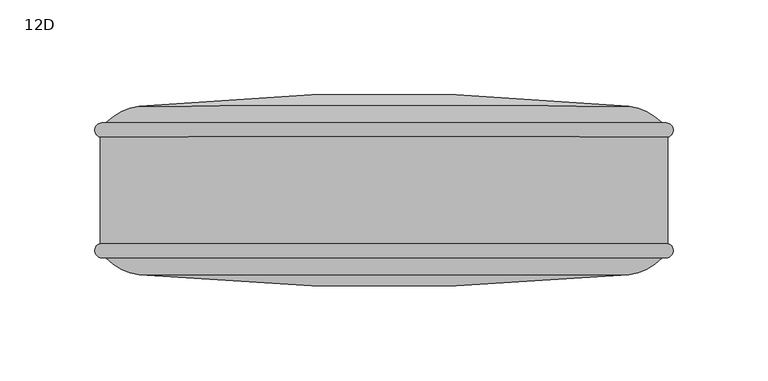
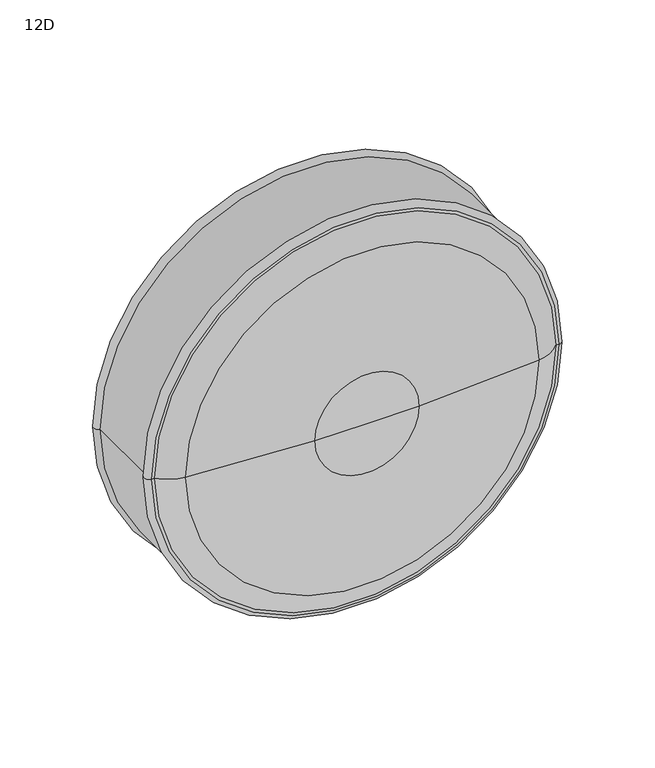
"""IFC4 building model written with IfcOpenShell, lengths in millimetres: furniture geometry, Steelcase Coalesse - Evaneau - Seating - Round Back Pillow : 12D."""

import ifcopenshell
import ifcopenshell.guid

model = None  # the IFC model being written
_history = None  # IfcOwnerHistory: only IFC2X3 demands one
_inside = {}  # id of a spatial element -> (the spatial element, [elements in it])
_under = {}  # id of a project, library or spatial element -> (it, [spatial elements below it])
_declared = {}  # id of a project -> (the project, [libraries it declares])
_typed = {}  # id of a type object -> (the type object, [elements of that type])
_made_of = {}  # id of a material, layer set ... -> (it, [elements and type objects made of it])


def new_model(schema):
    """Start an empty IFC model of exactly this schema.

    Asked for "IFC4X3", IfcOpenShell would pick the latest addendum, in which some entities
    have other attributes; the version numbers below select the first issue.
    IFC2X3 requires an IfcOwnerHistory on every rooted entity: one is made here for all.
    """
    global model, _history
    if schema == "IFC4X3":
        model = ifcopenshell.file(schema_version=(4, 3, 0, 0))
    else:
        model = ifcopenshell.file(schema=schema)
    _inside.clear()
    _under.clear()
    _declared.clear()
    _typed.clear()
    _made_of.clear()
    _history = None
    if model.schema == "IFC2X3":
        org = make("IfcOrganization", Name="unknown")
        user = make(
            "IfcPersonAndOrganization",
            ThePerson=make("IfcPerson", FamilyName="unknown"),
            TheOrganization=org,
        )
        app = make(
            "IfcApplication",
            ApplicationDeveloper=org,
            Version="unknown",
            ApplicationFullName="unknown",
            ApplicationIdentifier="unknown",
        )
        _history = make(
            "IfcOwnerHistory",
            OwningUser=user,
            OwningApplication=app,
            ChangeAction="ADDED",
            CreationDate=0,
        )
    return model


def make(cls, **values):
    """One entity of the class cls with the attributes given. An attribute that is None is left unset."""
    return model.create_entity(
        cls, **{name: value for name, value in values.items() if value is not None}
    )


def rooted(cls, **values):
    """An entity with a GlobalId (a new one), such as an element, a storey or a relation."""
    return make(cls, GlobalId=ifcopenshell.guid.new(), OwnerHistory=_history, **values)


def si_unit(unit_type, name, prefix=None):
    """IfcSIUnit, for example si_unit("LENGTHUNIT", "METRE", prefix="MILLI")."""
    return make("IfcSIUnit", UnitType=unit_type, Prefix=prefix, Name=name)


def assignment(units):
    """IfcUnitAssignment: the units of a project."""
    return None if units is None else make("IfcUnitAssignment", Units=units)


def point(xyz):
    """IfcCartesianPoint."""
    return None if xyz is None else make("IfcCartesianPoint", Coordinates=xyz)


def direction(xyz):
    """IfcDirection."""
    return None if xyz is None else make("IfcDirection", DirectionRatios=xyz)


def frame(location, z_axis=None, x_axis=None):
    """IfcAxis2Placement3D, a coordinate frame: its origin and axes. An axis left out is left unset."""
    return make(
        "IfcAxis2Placement3D",
        Location=point(location),
        Axis=direction(z_axis),
        RefDirection=direction(x_axis),
    )


def origin():
    """The frame at (0, 0, 0) with its axes left unset."""
    return frame((0.0, 0.0, 0.0))


def place(relative_to, where):
    """IfcLocalPlacement: puts the frame where relative to a parent placement (None: the world)."""
    return make(
        "IfcLocalPlacement", PlacementRelTo=relative_to, RelativePlacement=where
    )


def context(
    kind, dimensions, precision=None, world=None, true_north=None, identifier=None
):
    """IfcGeometricRepresentationContext, for example the 3D "Model" context."""
    return make(
        "IfcGeometricRepresentationContext",
        ContextIdentifier=identifier,
        ContextType=kind,
        CoordinateSpaceDimension=dimensions,
        Precision=precision,
        WorldCoordinateSystem=world,
        TrueNorth=true_north,
    )


def project(units=None, contexts=None):
    """IfcProject with its units and contexts."""
    return rooted(
        "IfcProject",
        Name="project",
        RepresentationContexts=contexts,
        UnitsInContext=assignment(units),
    )


def spatial(cls, under=None, at=None, **own):
    """A site, building, storey or space (cls), placed at a placement, below another one or the project."""
    s = rooted(cls, ObjectPlacement=at, **own)
    if under is not None:
        _under.setdefault(under.id(), (under, []))[1].append(s)
    return s


def circle_curve(where, radius):
    """IfcCircle in the frame where."""
    return make("IfcCircle", Position=where, Radius=radius)


def ellipse_curve(where, semi_axis1, semi_axis2):
    """IfcEllipse in the frame where."""
    return make(
        "IfcEllipse", Position=where, SemiAxis1=semi_axis1, SemiAxis2=semi_axis2
    )


def trimmed(basis, trim1, trim2, sense, master):
    """IfcTrimmedCurve: the piece of a basis curve between two trims."""
    return make(
        "IfcTrimmedCurve",
        BasisCurve=basis,
        Trim1=trim1,
        Trim2=trim2,
        SenseAgreement=sense,
        MasterRepresentation=master,
    )


def shape(context_of_items, identifier, shape_type, items):
    """IfcShapeRepresentation: the items that make up one representation, for example the "Body"."""
    return make(
        "IfcShapeRepresentation",
        ContextOfItems=context_of_items,
        RepresentationIdentifier=identifier,
        RepresentationType=shape_type,
        Items=items,
    )


def source(mapping_origin, context_of_items, identifier, shape_type, items):
    """IfcRepresentationMap: a shape defined once, which mapped items show again and again."""
    return make(
        "IfcRepresentationMap",
        MappingOrigin=mapping_origin,
        MappedRepresentation=shape(context_of_items, identifier, shape_type, items),
    )


def transform(
    local_origin,
    x_axis=None,
    y_axis=None,
    z_axis=None,
    scale=None,
    scale2=None,
    scale3=None,
    uniform=True,
):
    """IfcCartesianTransformationOperator3D, or its non-uniform kind. x_axis, y_axis, z_axis: its Axis1, 2, 3."""
    if uniform:
        return make(
            "IfcCartesianTransformationOperator3D",
            Axis1=direction(x_axis),
            Axis2=direction(y_axis),
            LocalOrigin=point(local_origin),
            Scale=scale,
            Axis3=direction(z_axis),
        )
    return make(
        "IfcCartesianTransformationOperator3DnonUniform",
        Axis1=direction(x_axis),
        Axis2=direction(y_axis),
        LocalOrigin=point(local_origin),
        Scale=scale,
        Axis3=direction(z_axis),
        Scale2=scale2,
        Scale3=scale3,
    )


def mapped(mapping_source, mapping_target):
    """IfcMappedItem: shows the shape of a source again, moved by a transform."""
    return make(
        "IfcMappedItem", MappingSource=mapping_source, MappingTarget=mapping_target
    )


def made_of(thing, what):
    """Note that an element or type object is made of a material, layer set ...; save() writes the relation."""
    if what is not None:
        _made_of.setdefault(what.id(), (what, []))[1].append(thing)
    return thing


def element(
    cls,
    number,
    at=None,
    inside=None,
    cuts=None,
    type_object=None,
    material=None,
    context=None,
    identifier="Body",
    shape_type=None,
    held_by="IfcProductDefinitionShape",
    body=None,
    shapes=None,
    **own,
):
    """One element of the class cls, such as IfcWall. Its Tag is "e" and its number.

    at: its placement. inside: the storey or other place that contains it. cuts: it is an
    opening in that element (IfcRelVoidsElement). A single representation is given by context,
    identifier, shape_type and body (its items); several are given by shapes. held_by: the class
    of the entity that holds the representations. save() writes the other relations.
    """
    e = rooted(cls, Tag="e%d" % number, ObjectPlacement=at, **own)
    if body is not None:
        shapes = [shape(context, identifier, shape_type, body)]
    if shapes is not None:
        e.Representation = make(held_by, Representations=shapes)
    if inside is not None:
        _inside.setdefault(inside.id(), (inside, []))[1].append(e)
    if cuts is not None:
        rooted(
            "IfcRelVoidsElement", RelatingBuildingElement=cuts, RelatedOpeningElement=e
        )
    if type_object is not None:
        _typed.setdefault(type_object.id(), (type_object, []))[1].append(e)
    return made_of(e, material)


def aggregate(whole, parts):
    """IfcRelAggregates: a whole, such as a stair, and the parts it consists of."""
    return rooted("IfcRelAggregates", RelatingObject=whole, RelatedObjects=parts)


def save(model, path):
    """Write the relations noted so far, then the file.

    IfcRelAggregates (storeys below a building ...), IfcRelContainedInSpatialStructure (elements
    in a storey), IfcRelDefinesByType, IfcRelAssociatesMaterial and IfcRelDeclares: one each for
    every whole, place, type object, material and project.
    """
    for whole, parts in _under.values():
        aggregate(whole, parts)
    for where, things in _inside.values():
        rooted(
            "IfcRelContainedInSpatialStructure",
            RelatedElements=things,
            RelatingStructure=where,
        )
    for kind, things in _typed.values():
        rooted("IfcRelDefinesByType", RelatedObjects=things, RelatingType=kind)
    for what, things in _made_of.values():
        rooted("IfcRelAssociatesMaterial", RelatedObjects=things, RelatingMaterial=what)
    for by, libraries in _declared.values():
        rooted("IfcRelDeclares", RelatingContext=by, RelatedDefinitions=libraries)
    model.write(path)


def plane_surface(at):
    """IfcPlane: the flat surface through the origin of the frame at, square to its z axis."""
    return make("IfcPlane", Position=at)


def revolved_surface(curve, axis_point, axis_direction):
    """IfcSurfaceOfRevolution: the curve turned about the line through axis_point along axis_direction."""
    return make(
        "IfcSurfaceOfRevolution",
        SweptCurve=make("IfcArbitraryOpenProfileDef", ProfileType="CURVE", Curve=curve),
        AxisPosition=make("IfcAxis1Placement", Location=point(axis_point), Axis=direction(axis_direction)),
    )


def advanced_brep(points, edges, surfaces, faces):
    """IfcAdvancedBrep: a solid bounded by faces that lie on surfaces and meet in shared edges.

    An edge is (start, end): straight between two places in points (the first is 0);
    or (start, end, curve); or (start, end, curve, False) where it runs against its curve.
    A face is (place in surfaces, loops), or (place, loops, False) where it looks against
    its surface's normal. A loop lists edges by number (the first is 1), with a minus sign
    where the edge is run from its end to its start. The first loop is the outer one.
    """
    corners = [point(p) for p in points]
    vertices = [make("IfcVertexPoint", VertexGeometry=c) for c in corners]
    made = []
    for start, end, *more in edges:
        made.append(
            make(
                "IfcEdgeCurve",
                EdgeStart=vertices[start],
                EdgeEnd=vertices[end],
                EdgeGeometry=more[0] if more else make("IfcPolyline", Points=[corners[start], corners[end]]),
                SameSense=more[1] if len(more) > 1 else True,
            )
        )
    hull = []
    for where, loops, *sense in faces:
        bounds = []
        for j, loop in enumerate(loops):
            ring = [make("IfcOrientedEdge", EdgeElement=made[abs(k) - 1], Orientation=k > 0) for k in loop]
            bounds.append(
                make(
                    "IfcFaceOuterBound" if j == 0 else "IfcFaceBound",
                    Bound=make("IfcEdgeLoop", EdgeList=ring),
                    Orientation=True,
                )
            )
        hull.append(make("IfcAdvancedFace", Bounds=bounds, FaceSurface=surfaces[where], SameSense=sense[0] if sense else True))
    return make("IfcAdvancedBrep", Outer=make("IfcClosedShell", CfsFaces=hull))


def furniture_12d_b4e12894(model_context):
    return source(origin(), model_context, "Body", "AdvancedBrep", [
        advanced_brep(
        [(-551.5479672, 211.5061362, 584.744703), (-475.3479672, 211.5061362, 584.744703), (-513.4479672, 211.5061362, 584.744703), (-642.6360119, 217.4372422, 584.744703), (-384.2599225, 217.4372422, 584.744703), (-660.1881383, 226.3650403, 584.744703), (-366.7077962, 226.3650403, 584.744703), (-662.361363, 226.3650403, 584.744703), (-364.5345714, 226.3650403, 584.744703), (-663.2527768, 233.7918762, 584.744703), (-363.6431576, 233.7918762, 584.744703), (-663.2527768, 290.0927336, 584.744703), (-363.6431576, 290.0927336, 584.744703), (-662.361363, 297.5195695, 584.744703), (-364.5345714, 297.5195695, 584.744703), (-660.1881383, 297.5195695, 584.744703), (-366.7077962, 297.5195695, 584.744703), (-642.6360119, 306.4473676, 584.744703), (-384.2599225, 306.4473676, 584.744703), (-551.5479672, 312.3784735, 584.744703), (-475.3479672, 312.3784735, 584.744703), (-513.4479672, 312.3784735, 584.744703)],
        [
            (0, 1, circle_curve(frame((-513.4479672, 211.5061362, 584.744703), z_axis=(0.0, -1.0, 0.0), x_axis=(1.0, 0.0, 0.0)), 38.1)),
            (1, 2),
            (2, 0),
            (1, 0, circle_curve(frame((-513.4479672, 211.5061362, 584.744703), z_axis=(0.0, -1.0, 0.0), x_axis=(1.0, 0.0, 0.0)), 38.1)),
            (3, 4, circle_curve(frame((-513.4479672, 217.4372422, 584.744703), z_axis=(0.0, -1.0, 0.0), x_axis=(1.0, 0.0, 0.0)), 129.1880447)),
            (4, 1, circle_curve(frame((-475.3479672, 913.9223398, 584.744703), z_axis=(0.0, 0.0, -1.0), x_axis=(-1.0, 0.0, 0.0)), 702.4162036)),
            (0, 3, circle_curve(frame((-551.5479672, 913.9223398, 584.744703), z_axis=(0.0, 0.0, -1.0), x_axis=(1.0, 0.0, 0.0)), 702.4162036)),
            (4, 3, circle_curve(frame((-513.4479672, 217.4372422, 584.744703), z_axis=(0.0, -1.0, 0.0), x_axis=(1.0, 0.0, 0.0)), 129.1880447)),
            (5, 6, circle_curve(frame((-513.4479672, 226.3650403, 584.744703), z_axis=(0.0, -1.0, 0.0), x_axis=(1.0, 0.0, 0.0)), 146.7401711)),
            (6, 4, circle_curve(frame((-388.0832778, 246.6717041, 584.744703), z_axis=(0.0, 0.0, -1.0), x_axis=(-1.0, 0.0, 0.0)), 29.4834159)),
            (3, 5, circle_curve(frame((-638.8126567, 246.6717041, 584.744703), z_axis=(0.0, 0.0, -1.0), x_axis=(1.0, 0.0, 0.0)), 29.4834159)),
            (6, 5, circle_curve(frame((-513.4479672, 226.3650403, 584.744703), z_axis=(0.0, -1.0, 0.0), x_axis=(1.0, 0.0, 0.0)), 146.7401711)),
            (7, 8, circle_curve(frame((-513.4479672, 226.3650403, 584.744703), z_axis=(0.0, -1.0, 0.0), x_axis=(1.0, 0.0, 0.0)), 148.9133958)),
            (8, 6),
            (5, 7),
            (8, 7, circle_curve(frame((-513.4479672, 226.3650403, 584.744703), z_axis=(0.0, -1.0, 0.0), x_axis=(1.0, 0.0, 0.0)), 148.9133958)),
            (9, 10, circle_curve(frame((-513.4479672, 233.7918762, 584.744703), z_axis=(0.0, -1.0, 0.0), x_axis=(1.0, 0.0, 0.0)), 149.8048096)),
            (10, 8, circle_curve(frame((-364.5345714, 230.1319547, 584.744703), z_axis=(0.0, 0.0, -1.0), x_axis=(-1.0, 0.0, 0.0)), 3.7669144)),
            (7, 9, circle_curve(frame((-662.361363, 230.1319547, 584.744703), z_axis=(0.0, 0.0, -1.0), x_axis=(1.0, 0.0, 0.0)), 3.7669144)),
            (10, 9, circle_curve(frame((-513.4479672, 233.7918762, 584.744703), z_axis=(0.0, -1.0, 0.0), x_axis=(1.0, 0.0, 0.0)), 149.8048096)),
            (11, 12, circle_curve(frame((-513.4479672, 290.0927336, 584.744703), z_axis=(0.0, -1.0, 0.0), x_axis=(1.0, 0.0, 0.0)), 149.8048096)),
            (12, 10, circle_curve(frame((-937.0645913, 261.9423049, 584.744703), z_axis=(0.0, 0.0, -1.0), x_axis=(-1.0, 0.0, 0.0)), 574.1119988)),
            (9, 11, circle_curve(frame((-89.8313432, 261.9423049, 584.744703), z_axis=(0.0, 0.0, -1.0), x_axis=(1.0, 0.0, 0.0)), 574.1119988)),
            (12, 11, circle_curve(frame((-513.4479672, 290.0927336, 584.744703), z_axis=(0.0, -1.0, 0.0), x_axis=(1.0, 0.0, 0.0)), 149.8048096)),
            (13, 14, circle_curve(frame((-513.4479672, 297.5195695, 584.744703), z_axis=(0.0, -1.0, 0.0), x_axis=(1.0, 0.0, 0.0)), 148.9133958)),
            (14, 12, circle_curve(frame((-364.5345714, 293.7526551, 584.744703), z_axis=(0.0, 0.0, -1.0), x_axis=(-1.0, 0.0, 0.0)), 3.7669144)),
            (11, 13, circle_curve(frame((-662.361363, 293.7526551, 584.744703), z_axis=(0.0, 0.0, -1.0), x_axis=(1.0, 0.0, 0.0)), 3.7669144)),
            (14, 13, circle_curve(frame((-513.4479672, 297.5195695, 584.744703), z_axis=(0.0, -1.0, 0.0), x_axis=(1.0, 0.0, 0.0)), 148.9133958)),
            (15, 16, circle_curve(frame((-513.4479672, 297.5195695, 584.744703), z_axis=(0.0, -1.0, 0.0), x_axis=(1.0, 0.0, 0.0)), 146.7401711)),
            (16, 14),
            (13, 15),
            (16, 15, circle_curve(frame((-513.4479672, 297.5195695, 584.744703), z_axis=(0.0, -1.0, 0.0), x_axis=(1.0, 0.0, 0.0)), 146.7401711)),
            (17, 18, circle_curve(frame((-513.4479672, 306.4473676, 584.744703), z_axis=(0.0, -1.0, 0.0), x_axis=(1.0, 0.0, 0.0)), 129.1880447)),
            (18, 16, circle_curve(frame((-388.0832778, 277.2129056, 584.744703), z_axis=(0.0, 0.0, -1.0), x_axis=(-1.0, 0.0, 0.0)), 29.4834159)),
            (15, 17, circle_curve(frame((-638.8126567, 277.2129056, 584.744703), z_axis=(0.0, 0.0, -1.0), x_axis=(1.0, 0.0, 0.0)), 29.4834159)),
            (18, 17, circle_curve(frame((-513.4479672, 306.4473676, 584.744703), z_axis=(0.0, -1.0, 0.0), x_axis=(1.0, 0.0, 0.0)), 129.1880447)),
            (19, 20, circle_curve(frame((-513.4479672, 312.3784735, 584.744703), z_axis=(0.0, -1.0, 0.0), x_axis=(1.0, 0.0, 0.0)), 38.1)),
            (20, 18, circle_curve(frame((-475.3479672, -390.0377301, 584.744703), z_axis=(0.0, 0.0, -1.0), x_axis=(-1.0, 0.0, 0.0)), 702.4162036)),
            (17, 19, circle_curve(frame((-551.5479672, -390.0377301, 584.744703), z_axis=(0.0, 0.0, -1.0), x_axis=(1.0, 0.0, 0.0)), 702.4162036)),
            (20, 19, circle_curve(frame((-513.4479672, 312.3784735, 584.744703), z_axis=(0.0, -1.0, 0.0), x_axis=(1.0, 0.0, 0.0)), 38.1)),
            (21, 20),
            (19, 21),
        ],
        [
            plane_surface(frame((-513.4479672, 211.5061362, 584.744703), z_axis=(0.0, -1.0, 0.0), x_axis=(1.0, 0.0, 0.0))),
            revolved_surface(trimmed(ellipse_curve(frame((-475.3479672, 913.9223398, 584.744703), z_axis=(0.0, 0.0, 1.0), x_axis=(-1.0, 0.0, 0.0)), 702.4162036, 702.4162036), [point((-475.3479672, 211.5061362, 584.744703))], [point((-384.2599225, 217.4372422, 584.744703))], True, "CARTESIAN"), (-513.4479672, 249.6061362, 584.744703), (0.0, 1.0, 0.0)),
            revolved_surface(trimmed(ellipse_curve(frame((-388.0832778, 246.6717041, 584.744703), z_axis=(0.0, 0.0, 1.0), x_axis=(-1.0, 0.0, 0.0)), 29.4834159, 29.4834159), [point((-384.2599225, 217.4372422, 584.744703))], [point((-366.7077962, 226.3650403, 584.744703))], True, "CARTESIAN"), (-513.4479672, 249.6061362, 584.744703), (0.0, 1.0, 0.0)),
            plane_surface(frame((-513.4479672, 226.3650403, 584.744703), z_axis=(0.0, -1.0, 0.0), x_axis=(1.0, 0.0, 0.0))),
            revolved_surface(trimmed(ellipse_curve(frame((-364.5345714, 230.1319547, 584.744703), z_axis=(0.0, 0.0, 1.0), x_axis=(-1.0, 0.0, 0.0)), 3.7669144, 3.7669144), [point((-364.5345714, 226.3650403, 584.744703))], [point((-363.6431576, 233.7918762, 584.744703))], True, "CARTESIAN"), (-513.4479672, 249.6061362, 584.744703), (0.0, 1.0, 0.0)),
            revolved_surface(trimmed(ellipse_curve(frame((-937.0645913, 261.9423049, 584.744703), z_axis=(0.0, 0.0, 1.0), x_axis=(-1.0, 0.0, 0.0)), 574.1119988, 574.1119988), [point((-363.6431576, 233.7918762, 584.744703))], [point((-363.6431576, 290.0927336, 584.744703))], True, "CARTESIAN"), (-513.4479672, 249.6061362, 584.744703), (0.0, 1.0, 0.0)),
            revolved_surface(trimmed(ellipse_curve(frame((-364.5345714, 293.7526551, 584.744703), z_axis=(0.0, 0.0, 1.0), x_axis=(-1.0, 0.0, 0.0)), 3.7669144, 3.7669144), [point((-363.6431576, 290.0927336, 584.744703))], [point((-364.5345714, 297.5195695, 584.744703))], True, "CARTESIAN"), (-513.4479672, 249.6061362, 584.744703), (0.0, 1.0, 0.0)),
            plane_surface(frame((-513.4479672, 297.5195695, 584.744703), z_axis=(0.0, 1.0, 0.0), x_axis=(1.0, 0.0, 0.0))),
            revolved_surface(trimmed(ellipse_curve(frame((-388.0832778, 277.2129056, 584.744703), z_axis=(0.0, 0.0, 1.0), x_axis=(-1.0, 0.0, 0.0)), 29.4834159, 29.4834159), [point((-366.7077962, 297.5195695, 584.744703))], [point((-384.2599225, 306.4473676, 584.744703))], True, "CARTESIAN"), (-513.4479672, 249.6061362, 584.744703), (0.0, 1.0, 0.0)),
            revolved_surface(trimmed(ellipse_curve(frame((-475.3479672, -390.0377301, 584.744703), z_axis=(0.0, 0.0, 1.0), x_axis=(-1.0, 0.0, 0.0)), 702.4162036, 702.4162036), [point((-384.2599225, 306.4473676, 584.744703))], [point((-475.3479672, 312.3784735, 584.744703))], True, "CARTESIAN"), (-513.4479672, 249.6061362, 584.744703), (0.0, 1.0, 0.0)),
            plane_surface(frame((-513.4479672, 312.3784735, 584.744703), z_axis=(0.0, 1.0, 0.0), x_axis=(1.0, 0.0, 0.0))),
        ],
        [
            (0, [[1, 2, 3]]),
            (0, [[4, -3, -2]]),
            (1, [[5, 6, -1, 7]]),
            (1, [[8, -7, -4, -6]]),
            (2, [[9, 10, -5, 11]]),
            (2, [[12, -11, -8, -10]]),
            (3, [[13, 14, -9, 15]]),
            (3, [[16, -15, -12, -14]]),
            (4, [[17, 18, -13, 19]]),
            (4, [[20, -19, -16, -18]]),
            (5, [[21, 22, -17, 23]]),
            (5, [[24, -23, -20, -22]]),
            (6, [[25, 26, -21, 27]]),
            (6, [[28, -27, -24, -26]]),
            (7, [[29, 30, -25, 31]]),
            (7, [[32, -31, -28, -30]]),
            (8, [[33, 34, -29, 35]]),
            (8, [[36, -35, -32, -34]]),
            (9, [[37, 38, -33, 39]]),
            (9, [[40, -39, -36, -38]]),
            (10, [[41, -37, 42]]),
            (10, [[-42, -40, -41]]),
        ],
    ),
    ])


if __name__ == "__main__":
    model = new_model("IFC4")
    model_context = context("Model", 3, world=origin())
    ifc_project = project(units=[si_unit("LENGTHUNIT", "METRE", prefix="MILLI")], contexts=[model_context])
    site = spatial("IfcSite", under=ifc_project)
    building = spatial("IfcBuilding", under=site)
    placement = place(None, origin())
    furniture_12d_shape = furniture_12d_b4e12894(model_context)
    element("IfcFurniture", 1, ObjectType="Steelcase Coalesse - Evaneau - Seating - Round Back Pillow : 12D", at=placement, inside=building, context=model_context, shape_type="MappedRepresentation", body=[
        mapped(furniture_12d_shape, transform((0.0, 0.0, 0.0), x_axis=(1.0, 0.0, 0.0), y_axis=(0.0, 1.0, 0.0), z_axis=(0.0, 0.0, 1.0))),
    ])
    save(model, "model.ifc")
